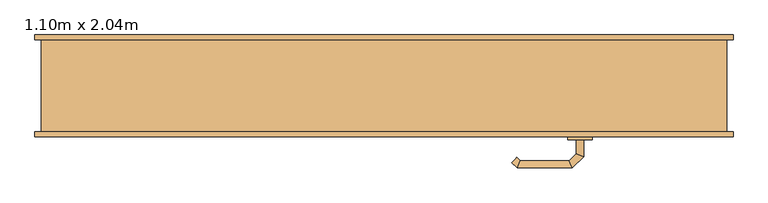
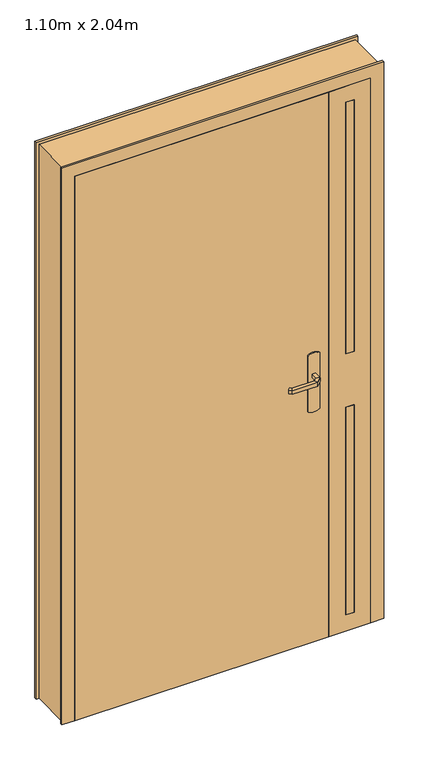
"""IFC4 building model written with IfcOpenShell, lengths in millimetres: door geometry, Tierce  160 : 1.10m x 2.04m."""

from ifc_helpers import new_model, si_unit, point, frame, frame_2d, origin, origin_with_axes, place, context, project, spatial, polyline, circle_curve, ellipse_curve, trimmed, segment, composite_curve, outline, extrude, faceted_brep, source, transform, mapped, element, save
from ifc_brep_helpers import plane_surface, cylinder_surface, advanced_brep


def door_1_10m_x_2_04m_aa51092d(model_context):
    return source(origin(), model_context, "Body", "SolidModel", [
        advanced_brep(
        [(314.0, -38.0, 993.0), (326.0, -38.0, 993.0), (326.0, -38.0, 1007.0), (314.0, -38.0, 1007.0), (314.0, -15.5147955, 1007.0), (314.0, -15.5147955, 993.0), (326.0, -10.5442327, 1007.0), (326.0, -10.5442327, 993.0), (302.5147186, -4.0295141, 1007.0), (302.5147186, -4.0295141, 993.0), (307.4852814, 7.9704859, 1007.0), (307.4852814, 7.9704859, 993.0), (222.4394977, -4.0295141, 1007.0), (222.4394977, -4.0295141, 993.0), (217.468935, 7.9704859, 1007.0), (217.468935, 7.9704859, 993.0), (217.1257892, -9.3432226, 993.0), (217.1257892, -9.3432226, 1007.0), (208.6405078, -0.8579412, 1007.0), (208.6405078, -0.8579412, 993.0)],
        [
            (0, 1, circle_curve(frame((320.0, -38.0, 1013.0457722), z_axis=(0.0, -1.0, 0.0), x_axis=(1.0, 0.0, 0.0)), 20.9244589)),
            (1, 2),
            (2, 3, circle_curve(frame((320.0, -38.0, 986.9542278), z_axis=(0.0, -1.0, 0.0), x_axis=(1.0, 0.0, 0.0)), 20.9244589)),
            (3, 0),
            (3, 4),
            (4, 5),
            (5, 0),
            (2, 6),
            (6, 4, ellipse_curve(frame((320.0, -13.0295141, 986.9542278), z_axis=(0.38268343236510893, -0.9238795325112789, 0.0), x_axis=(-0.9238795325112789, -0.3826834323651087, 0.0)), 22.6484711, 20.9244589)),
            (1, 7),
            (7, 6),
            (5, 7, ellipse_curve(frame((320.0, -13.0295141, 1013.0457722), z_axis=(0.38268343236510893, -0.9238795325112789, 0.0), x_axis=(-0.9238795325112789, -0.3826834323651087, 0.0)), 22.6484711, 20.9244589)),
            (4, 8),
            (8, 9),
            (9, 5),
            (6, 10),
            (10, 8, ellipse_curve(frame((305.0, 1.9704859, 986.9542278), z_axis=(0.9238795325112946, -0.38268343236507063, 0.0), x_axis=(-0.3826834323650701, -0.9238795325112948, 0.0)), 22.6484711, 20.9244589)),
            (7, 11),
            (11, 10),
            (9, 11, ellipse_curve(frame((305.0, 1.9704859, 1013.0457722), z_axis=(0.9238795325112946, -0.38268343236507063, 0.0), x_axis=(-0.3826834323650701, -0.9238795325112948, 0.0)), 22.6484711, 20.9244589)),
            (8, 12),
            (12, 13),
            (13, 9),
            (10, 14),
            (14, 12, ellipse_curve(frame((219.9542163, 1.9704859, 986.9542278), z_axis=(0.9238795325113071, 0.38268343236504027, 0.0), x_axis=(0.38268343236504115, -0.9238795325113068, 0.0)), 22.6484711, 20.9244589)),
            (11, 15),
            (15, 14),
            (13, 15, ellipse_curve(frame((219.9542163, 1.9704859, 1013.0457722), z_axis=(0.9238795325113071, 0.38268343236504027, 0.0), x_axis=(0.38268343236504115, -0.9238795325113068, 0.0)), 22.6484711, 20.9244589)),
            (16, 17),
            (17, 18, circle_curve(frame((212.8831485, -5.1005819, 986.9542278), z_axis=(-0.7071067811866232, -0.7071067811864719, 0.0), x_axis=(-0.7071067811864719, 0.7071067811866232, 0.0)), 20.9244589)),
            (18, 19),
            (19, 16, circle_curve(frame((212.8831485, -5.1005819, 1013.0457722), z_axis=(-0.7071067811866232, -0.7071067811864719, 0.0), x_axis=(-0.7071067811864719, 0.7071067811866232, 0.0)), 20.9244589)),
            (12, 17),
            (16, 13),
            (14, 18),
            (15, 19),
        ],
        [
            plane_surface(frame((329.2195445, -38.0, 1000.0), z_axis=(0.0, -1.0, 0.0), x_axis=(0.0, 0.0, 1.0))),
            plane_surface(frame((314.0, -38.0, 993.0), z_axis=(-1.0, 0.0, 0.0), x_axis=(0.0, 1.0, 0.0))),
            cylinder_surface(frame((320.0, -38.0, 986.9542278), z_axis=(0.0, -1.0, 0.0), x_axis=(1.0, 0.0, 0.0)), 20.9244589),
            plane_surface(frame((326.0, -38.0, 1007.0), z_axis=(1.0, 0.0, 0.0), x_axis=(0.0, 1.0, 0.0))),
            cylinder_surface(frame((320.0, -38.0, 1013.0457722), z_axis=(0.0, -1.0, 0.0), x_axis=(1.0, 0.0, 0.0)), 20.9244589),
            plane_surface(frame((314.0, -15.5147955, 993.0), z_axis=(-0.707106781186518, -0.707106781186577, 0.0), x_axis=(-0.707106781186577, 0.707106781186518, 0.0))),
            cylinder_surface(frame((320.0, -13.0295141, 986.9542278), z_axis=(0.7071067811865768, -0.7071067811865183, 0.0), x_axis=(0.7071067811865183, 0.7071067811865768, 0.0)), 20.9244589),
            plane_surface(frame((326.0, -10.5442327, 1007.0), z_axis=(0.7071067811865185, 0.7071067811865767, 0.0), x_axis=(-0.7071067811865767, 0.7071067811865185, 0.0))),
            cylinder_surface(frame((320.0, -13.0295141, 1013.0457722), z_axis=(0.7071067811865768, -0.7071067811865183, 0.0), x_axis=(0.7071067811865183, 0.7071067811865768, 0.0)), 20.9244589),
            plane_surface(frame((302.5147186, -4.0295141, 993.0), z_axis=(0.0, -1.0, 0.0), x_axis=(-1.0, 0.0, 0.0))),
            cylinder_surface(frame((305.0, 1.9704859, 986.9542278), z_axis=(1.0, 0.0, 0.0), x_axis=(0.0, 1.0, 0.0)), 20.9244589),
            plane_surface(frame((307.4852814, 7.9704859, 1007.0), z_axis=(0.0, 1.0, 0.0), x_axis=(-1.0, 0.0, 0.0))),
            cylinder_surface(frame((305.0, 1.9704859, 1013.0457722), z_axis=(1.0, 0.0, 0.0), x_axis=(0.0, 1.0, 0.0)), 20.9244589),
            plane_surface(frame((212.8831485, -5.1005819, 990.7804555), z_axis=(-0.7071067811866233, -0.7071067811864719, 0.0), x_axis=(-0.7071067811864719, 0.7071067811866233, 0.0))),
            plane_surface(frame((222.4394977, -4.0295141, 993.0), z_axis=(0.707106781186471, -0.7071067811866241, 0.0), x_axis=(-0.7071067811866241, -0.707106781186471, 0.0))),
            cylinder_surface(frame((219.9542163, 1.9704859, 986.9542278), z_axis=(0.7071067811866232, 0.7071067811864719, 0.0), x_axis=(-0.7071067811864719, 0.7071067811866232, 0.0)), 20.9244589),
            plane_surface(frame((217.468935, 7.9704859, 1007.0), z_axis=(-0.7071067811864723, 0.7071067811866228, 0.0), x_axis=(-0.7071067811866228, -0.7071067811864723, 0.0))),
            cylinder_surface(frame((219.9542163, 1.9704859, 1013.0457722), z_axis=(0.7071067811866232, 0.7071067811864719, 0.0), x_axis=(-0.7071067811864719, 0.7071067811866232, 0.0)), 20.9244589),
        ],
        [
            (0, [[1, 2, 3, 4]]),
            (1, [[5, 6, 7, -4]]),
            (2, [[8, 9, -5, -3]]),
            (3, [[10, 11, -8, -2]]),
            (4, [[-7, 12, -10, -1]]),
            (5, [[13, 14, 15, -6]]),
            (6, [[16, 17, -13, -9]]),
            (7, [[18, 19, -16, -11]]),
            (8, [[-15, 20, -18, -12]]),
            (9, [[21, 22, 23, -14]]),
            (10, [[24, 25, -21, -17]]),
            (11, [[26, 27, -24, -19]]),
            (12, [[-23, 28, -26, -20]]),
            (13, [[29, 30, 31, 32]]),
            (14, [[33, -29, 34, -22]]),
            (15, [[35, -30, -33, -25]]),
            (16, [[36, -31, -35, -27]]),
            (17, [[-34, -32, -36, -28]]),
        ],
    ),
        advanced_brep(
        [(326.0, -88.0, 1007.0), (326.0, -88.0, 993.0), (314.0, -88.0, 993.0), (314.0, -88.0, 1007.0), (314.0, -110.680388, 1007.0), (326.0, -115.6509507, 1007.0), (314.0, -110.680388, 993.0), (326.0, -115.6509507, 993.0), (302.6522273, -122.0281607, 1007.0), (307.62279, -134.0281607, 1007.0), (302.6522273, -122.0281607, 993.0), (307.62279, -134.0281607, 993.0), (222.4666408, -122.0281607, 1007.0), (217.496078, -134.0281607, 1007.0), (222.4666408, -122.0281607, 993.0), (217.496078, -134.0281607, 993.0), (208.6676509, -125.1997336, 1007.0), (217.1529323, -116.7144522, 1007.0), (217.1529323, -116.7144522, 993.0), (208.6676509, -125.1997336, 993.0)],
        [
            (0, 1),
            (1, 2, circle_curve(frame((320.0, -88.0, 1013.0457722), z_axis=(0.0, 1.0, 0.0), x_axis=(-1.0, 0.0, 0.0)), 20.9244589)),
            (2, 3),
            (3, 0, circle_curve(frame((320.0, -88.0, 986.9542278), z_axis=(0.0, 1.0, 0.0), x_axis=(-1.0, 0.0, 0.0)), 20.9244589)),
            (3, 4),
            (4, 5, ellipse_curve(frame((320.0, -113.1656693, 986.9542278), z_axis=(0.3826834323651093, 0.9238795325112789, 0.0), x_axis=(-0.9238795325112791, 0.38268343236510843, 0.0)), 22.6484711, 20.9244589)),
            (5, 0),
            (2, 6),
            (6, 4),
            (1, 7),
            (7, 6, ellipse_curve(frame((320.0, -113.1656693, 1013.0457722), z_axis=(0.3826834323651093, 0.9238795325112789, 0.0), x_axis=(-0.9238795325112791, 0.38268343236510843, 0.0)), 22.6484711, 20.9244589)),
            (5, 7),
            (4, 8),
            (8, 9, ellipse_curve(frame((305.1375086, -128.0281607, 986.9542278), z_axis=(0.9238795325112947, 0.38268343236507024, 0.0), x_axis=(-0.3826834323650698, 0.9238795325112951, 0.0)), 22.6484711, 20.9244589)),
            (9, 5),
            (6, 10),
            (10, 8),
            (7, 11),
            (11, 10, ellipse_curve(frame((305.1375086, -128.0281607, 1013.0457722), z_axis=(0.9238795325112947, 0.38268343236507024, 0.0), x_axis=(-0.3826834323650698, 0.9238795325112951, 0.0)), 22.6484711, 20.9244589)),
            (9, 11),
            (8, 12),
            (12, 13, ellipse_curve(frame((219.9813594, -128.0281607, 986.9542278), z_axis=(0.9238795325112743, -0.3826834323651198, 0.0), x_axis=(0.38268343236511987, 0.9238795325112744, 0.0)), 22.6484711, 20.9244589)),
            (13, 9),
            (10, 14),
            (14, 12),
            (11, 15),
            (15, 14, ellipse_curve(frame((219.9813594, -128.0281607, 1013.0457722), z_axis=(0.9238795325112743, -0.3826834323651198, 0.0), x_axis=(0.38268343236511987, 0.9238795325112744, 0.0)), 22.6484711, 20.9244589)),
            (13, 15),
            (16, 17, circle_curve(frame((212.9102916, -120.9570929, 986.9542278), z_axis=(-0.7071067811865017, 0.7071067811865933, 0.0), x_axis=(0.7071067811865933, 0.7071067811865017, 0.0)), 20.9244589)),
            (17, 18),
            (18, 19, circle_curve(frame((212.9102916, -120.9570929, 1013.0457722), z_axis=(-0.7071067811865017, 0.7071067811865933, 0.0), x_axis=(0.7071067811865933, 0.7071067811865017, 0.0)), 20.9244589)),
            (19, 16),
            (12, 17),
            (16, 13),
            (14, 18),
            (15, 19),
        ],
        [
            plane_surface(frame((329.2195445, -88.0, 1000.0), z_axis=(0.0, 1.0, 0.0), x_axis=(0.0, 0.0, -1.0))),
            cylinder_surface(frame((320.0, -88.0, 986.9542278), z_axis=(0.0, 1.0, 0.0), x_axis=(-1.0, 0.0, 0.0)), 20.9244589),
            plane_surface(frame((314.0, -88.0, 1007.0), z_axis=(-1.0, 0.0, 0.0), x_axis=(0.0, -1.0, 0.0))),
            cylinder_surface(frame((320.0, -88.0, 1013.0457722), z_axis=(0.0, 1.0, 0.0), x_axis=(-1.0, 0.0, 0.0)), 20.9244589),
            plane_surface(frame((326.0, -88.0, 993.0), z_axis=(1.0, 0.0, 0.0), x_axis=(0.0, -1.0, 0.0))),
            cylinder_surface(frame((320.0, -113.1656693, 986.9542278), z_axis=(0.7071067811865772, 0.7071067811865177, 0.0), x_axis=(-0.7071067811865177, 0.7071067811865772, 0.0)), 20.9244589),
            plane_surface(frame((314.0, -110.680388, 1007.0), z_axis=(-0.7071067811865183, 0.7071067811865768, 0.0), x_axis=(-0.7071067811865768, -0.7071067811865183, 0.0))),
            cylinder_surface(frame((320.0, -113.1656693, 1013.0457722), z_axis=(0.7071067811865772, 0.7071067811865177, 0.0), x_axis=(-0.7071067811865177, 0.7071067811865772, 0.0)), 20.9244589),
            plane_surface(frame((326.0, -115.6509507, 993.0), z_axis=(0.707106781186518, -0.707106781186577, 0.0), x_axis=(-0.707106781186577, -0.707106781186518, 0.0))),
            cylinder_surface(frame((305.1375086, -128.0281607, 986.9542278), z_axis=(1.0, 0.0, 0.0), x_axis=(0.0, 1.0, 0.0)), 20.9244589),
            plane_surface(frame((302.6522273, -122.0281607, 1007.0), z_axis=(0.0, 1.0, 0.0), x_axis=(-1.0, 0.0, 0.0))),
            cylinder_surface(frame((305.1375086, -128.0281607, 1013.0457722), z_axis=(1.0, 0.0, 0.0), x_axis=(0.0, 1.0, 0.0)), 20.9244589),
            plane_surface(frame((307.62279, -134.0281607, 993.0), z_axis=(0.0, -1.0, 0.0), x_axis=(-1.0, 0.0, 0.0))),
            plane_surface(frame((212.9102916, -120.9570929, 1009.2195445), z_axis=(-0.7071067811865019, 0.7071067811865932, 0.0), x_axis=(-0.7071067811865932, -0.7071067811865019, 0.0))),
            cylinder_surface(frame((219.9813594, -128.0281607, 986.9542278), z_axis=(0.7071067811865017, -0.7071067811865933, 0.0), x_axis=(0.7071067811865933, 0.7071067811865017, 0.0)), 20.9244589),
            plane_surface(frame((222.4666408, -122.0281607, 1007.0), z_axis=(0.7071067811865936, 0.7071067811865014, 0.0), x_axis=(-0.7071067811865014, 0.7071067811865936, 0.0))),
            cylinder_surface(frame((219.9813594, -128.0281607, 1013.0457722), z_axis=(0.7071067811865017, -0.7071067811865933, 0.0), x_axis=(0.7071067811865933, 0.7071067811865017, 0.0)), 20.9244589),
            plane_surface(frame((217.496078, -134.0281607, 993.0), z_axis=(-0.707106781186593, -0.7071067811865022, 0.0), x_axis=(-0.7071067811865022, 0.707106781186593, 0.0))),
        ],
        [
            (0, [[1, 2, 3, 4]]),
            (1, [[5, 6, 7, -4]]),
            (2, [[8, 9, -5, -3]]),
            (3, [[10, 11, -8, -2]]),
            (4, [[-7, 12, -10, -1]]),
            (5, [[13, 14, 15, -6]]),
            (6, [[16, 17, -13, -9]]),
            (7, [[18, 19, -16, -11]]),
            (8, [[-15, 20, -18, -12]]),
            (9, [[21, 22, 23, -14]]),
            (10, [[24, 25, -21, -17]]),
            (11, [[26, 27, -24, -19]]),
            (12, [[-23, 28, -26, -20]]),
            (13, [[29, 30, 31, 32]]),
            (14, [[33, -29, 34, -22]]),
            (15, [[35, -30, -33, -25]]),
            (16, [[36, -31, -35, -27]]),
            (17, [[-34, -32, -36, -28]]),
        ],
    ),
        extrude(outline(composite_curve([segment(polyline([(1080.0, 300.0), (870.0, 300.0)]), True, "CONTINUOUS"), segment(trimmed(circle_curve(frame_2d((904.6410162, 320.0)), 40.0), [point((870.0, 300.0))], [point((870.0, 340.0))], False, "CARTESIAN"), True, "CONTINUOUS"), segment(polyline([(870.0, 340.0), (1080.0, 340.0)]), True, "CONTINUOUS"), segment(trimmed(circle_curve(frame_2d((1045.3589838, 320.0)), 40.0), [point((1080.0, 340.0))], [point((1080.0, 300.0))], False, "CARTESIAN"), True, "CONTINUOUS")], self_intersect=False)), frame((0.0, -43.0, 0.0), z_axis=(0.0, 1.0, 0.0), x_axis=(0.0, 0.0, 1.0)), (0.0, 0.0, 1.0), 5.0),
        extrude(outline(composite_curve([segment(polyline([(870.0, 340.0), (1080.0, 340.0)]), True, "CONTINUOUS"), segment(trimmed(circle_curve(frame_2d((1045.3589838, 320.0)), 40.0), [point((1080.0, 340.0))], [point((1080.0, 300.0))], False, "CARTESIAN"), True, "CONTINUOUS"), segment(polyline([(1080.0, 300.0), (870.0, 300.0)]), True, "CONTINUOUS"), segment(trimmed(circle_curve(frame_2d((904.6410162, 320.0)), 40.0), [point((870.0, 300.0))], [point((870.0, 340.0))], False, "CARTESIAN"), True, "CONTINUOUS")], self_intersect=False)), frame((0.0, -88.0, 0.0), z_axis=(0.0, 1.0, 0.0), x_axis=(0.0, 0.0, 1.0)), (0.0, 0.0, 1.0), 5.0),
        faceted_brep([(-560.0, -75.0, 0.0), (-560.0, 75.0, 0.0), (-570.0, 75.0, 0.0), (-570.0, 83.0, 0.0), (-510.0, 83.0, 0.0), (-510.0, -43.0, 0.0), (-525.0, -43.0, 0.0), (-525.0, -83.0, 0.0), (-570.0, -83.0, 0.0), (-570.0, -75.0, 0.0), (-560.0, -75.0, 2075.0), (-560.0, 75.0, 2075.0), (560.0, 75.0, 2075.0), (560.0, 75.0, 0.0), (570.0, 75.0, 0.0), (570.0, 75.0, 2085.0), (-570.0, 75.0, 2085.0), (-570.0, 83.0, 2085.0), (570.0, 83.0, 2085.0), (570.0, 83.0, 0.0), (510.0, 83.0, 0.0), (510.0, 83.0, 2025.0), (-510.0, 83.0, 2025.0), (-510.0, -43.0, 2025.0), (510.0, -43.0, 2025.0), (510.0, -43.0, 0.0), (525.0, -43.0, 0.0), (525.0, -43.0, 2040.0), (-525.0, -43.0, 2040.0), (-525.0, -83.0, 2040.0), (525.0, -83.0, 2040.0), (525.0, -83.0, 0.0), (570.0, -83.0, 0.0), (570.0, -83.0, 2085.0), (-570.0, -83.0, 2085.0), (-570.0, -75.0, 2085.0), (570.0, -75.0, 2085.0), (570.0, -75.0, 0.0), (560.0, -75.0, 0.0), (560.0, -75.0, 2075.0)], [[[0, 1, 2, 3, 4, 5, 6, 7, 8, 9]], [[1, 0, 10, 11]], [[2, 1, 11, 12, 13, 14, 15, 16]], [[3, 2, 16, 17]], [[4, 3, 17, 18, 19, 20, 21, 22]], [[5, 4, 22, 23]], [[6, 5, 23, 24, 25, 26, 27, 28]], [[7, 6, 28, 29]], [[8, 7, 29, 30, 31, 32, 33, 34]], [[9, 8, 34, 35]], [[0, 9, 35, 36, 37, 38, 39, 10]], [[12, 39, 38, 13]], [[38, 37, 32, 31, 26, 25, 20, 19, 14, 13]], [[18, 15, 14, 19]], [[24, 21, 20, 25]], [[30, 27, 26, 31]], [[36, 33, 32, 37]], [[11, 10, 39, 12]], [[17, 16, 15, 18]], [[23, 22, 21, 24]], [[29, 28, 27, 30]], [[35, 34, 33, 36]]]),
        extrude(outline(polyline([(465.0, -83.0), (435.0, -83.0), (435.0, -43.0), (465.0, -43.0), (465.0, -83.0)])), frame((0.0, 0.0, 60.0), z_axis=(0.0, 0.0, 1.0), x_axis=(1.0, 0.0, 0.0)), (0.0, 0.0, 1.0), 777.5),
        extrude(outline(polyline([(465.0, -83.0), (435.0, -83.0), (435.0, -43.0), (465.0, -43.0), (465.0, -83.0)])), frame((0.0, 0.0, 1037.5), z_axis=(0.0, 0.0, 1.0), x_axis=(1.0, 0.0, 0.0)), (0.0, 0.0, 1.0), 942.5),
        extrude(outline(polyline([(2040.0, 525.0), (2040.0, 375.0), (0.0, 375.0), (0.0, 525.0), (2040.0, 525.0)]), holes=[polyline([(837.5, 435.0), (837.5, 465.0), (60.0, 465.0), (60.0, 435.0), (837.5, 435.0)]), polyline([(1037.5, 465.0), (1037.5, 435.0), (1980.0, 435.0), (1980.0, 465.0), (1037.5, 465.0)])]), frame((0.0, -83.0, 0.0), z_axis=(0.0, 1.0, 0.0), x_axis=(0.0, 0.0, 1.0)), (0.0, 0.0, 1.0), 40.0),
        extrude(outline(polyline([(375.0, -83.0), (-525.0, -83.0), (-525.0, -43.0), (375.0, -43.0), (375.0, -83.0)])), origin_with_axes(), (0.0, 0.0, 1.0), 2040.0),
    ])


if __name__ == "__main__":
    model = new_model("IFC4")
    model_context = context("Model", 3, world=origin())
    ifc_project = project(units=[si_unit("LENGTHUNIT", "METRE", prefix="MILLI")], contexts=[model_context])
    site = spatial("IfcSite", under=ifc_project)
    building = spatial("IfcBuilding", under=site)
    placement = place(None, origin())
    door_1_10m_x_2_04m_shape = door_1_10m_x_2_04m_aa51092d(model_context)
    element("IfcDoor", 1, ObjectType="Tierce  160 : 1.10m x 2.04m", at=placement, inside=building, context=model_context, shape_type="MappedRepresentation", body=[
        mapped(door_1_10m_x_2_04m_shape, transform((0.0, 0.0, 0.0), x_axis=(1.0, 0.0, 0.0), y_axis=(0.0, 1.0, 0.0), z_axis=(0.0, 0.0, 1.0))),
    ])
    save(model, "model.ifc")
